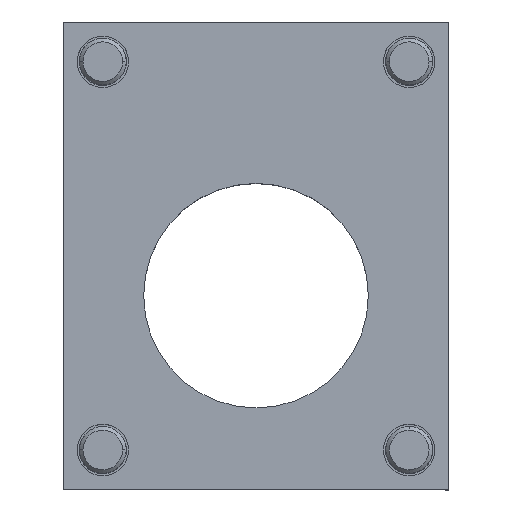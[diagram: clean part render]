
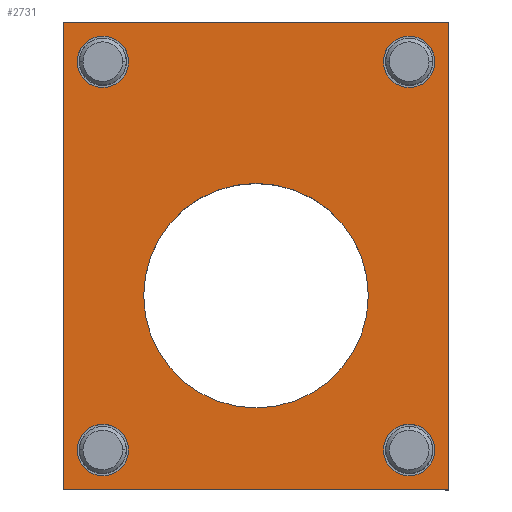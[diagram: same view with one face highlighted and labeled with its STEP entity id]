
A CAD part, top view. The second image highlights one B-rep face of the part: STEP entity #2731.
In plain terms, the highlighted planar face has unit normal (0, 0, 1).
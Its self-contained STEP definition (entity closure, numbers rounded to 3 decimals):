
#7 = ORIENTED_EDGE ( 'NONE', *, *, #4421, .T. ) ;
#12 = EDGE_CURVE ( 'NONE', #2792, #1802, #1208, .T. ) ;
#370 = DIRECTION ( 'NONE',  ( 1., 0., 0. ) ) ;
#408 = EDGE_CURVE ( 'NONE', #2916, #503, #6071, .T. ) ;
#425 = DIRECTION ( 'NONE',  ( 0., 0., 1. ) ) ;
#481 = DIRECTION ( 'NONE',  ( 0., 0., -1. ) ) ;
#493 = EDGE_CURVE ( 'NONE', #6315, #2860, #4574, .T. ) ;
#503 = VERTEX_POINT ( 'NONE', #4262 ) ;
#505 = DIRECTION ( 'NONE',  ( 0., 1., 0. ) ) ;
#580 = EDGE_CURVE ( 'NONE', #2860, #6315, #5850, .T. ) ;
#670 = CARTESIAN_POINT ( 'NONE',  ( -65.5, -77., -49.5 ) ) ;
#683 = DIRECTION ( 'NONE',  ( 0., 1., 0. ) ) ;
#714 = CARTESIAN_POINT ( 'NONE',  ( -65.5, 89., -49.5 ) ) ;
#748 = DIRECTION ( 'NONE',  ( 0., 0., -1. ) ) ;
#796 = CARTESIAN_POINT ( 'NONE',  ( 65.5, 89., -49.5 ) ) ;
#866 = LINE ( 'NONE', #2898, #4368 ) ;
#943 = CARTESIAN_POINT ( 'NONE',  ( 65.5, 100., -49.5 ) ) ;
#1023 = FACE_BOUND ( 'NONE', #4675, .T. ) ;
#1151 = DIRECTION ( 'NONE',  ( 0., 1., 0. ) ) ;
#1152 = AXIS2_PLACEMENT_3D ( 'NONE', #1284, #3227, #1724 ) ;
#1208 = CIRCLE ( 'NONE', #1961, 11. ) ;
#1240 = CARTESIAN_POINT ( 'NONE',  ( 65.5, 111., -49.5 ) ) ;
#1284 = CARTESIAN_POINT ( 'NONE',  ( -65.5, 100., -49.5 ) ) ;
#1313 = CIRCLE ( 'NONE', #5058, 11. ) ;
#1403 = DIRECTION ( 'NONE',  ( 0., 1., 0. ) ) ;
#1405 = CARTESIAN_POINT ( 'NONE',  ( 82.5, 117., -49.5 ) ) ;
#1465 = EDGE_CURVE ( 'NONE', #5059, #4111, #866, .T. ) ;
#1575 = EDGE_CURVE ( 'NONE', #4339, #5662, #3129, .T. ) ;
#1680 = EDGE_CURVE ( 'NONE', #3888, #6203, #5973, .T. ) ;
#1724 = DIRECTION ( 'NONE',  ( 0., 1., 0. ) ) ;
#1760 = CARTESIAN_POINT ( 'NONE',  ( -65.5, 100., -49.5 ) ) ;
#1802 = VERTEX_POINT ( 'NONE', #796 ) ;
#1953 = CIRCLE ( 'NONE', #5688, 11. ) ;
#1961 = AXIS2_PLACEMENT_3D ( 'NONE', #5091, #2081, #505 ) ;
#1964 = PLANE ( 'NONE',  #4605 ) ;
#1993 = FACE_BOUND ( 'NONE', #6585, .T. ) ;
#2012 = CARTESIAN_POINT ( 'NONE',  ( 82.5, -83., -49.5 ) ) ;
#2025 = FACE_BOUND ( 'NONE', #3998, .T. ) ;
#2050 = DIRECTION ( 'NONE',  ( 0., -1., 0. ) ) ;
#2059 = AXIS2_PLACEMENT_3D ( 'NONE', #2302, #6371, #2366 ) ;
#2081 = DIRECTION ( 'NONE',  ( 0., 0., -1. ) ) ;
#2170 = CARTESIAN_POINT ( 'NONE',  ( 82.5, -83., -49.5 ) ) ;
#2302 = CARTESIAN_POINT ( 'NONE',  ( -65.5, -66., -49.5 ) ) ;
#2366 = DIRECTION ( 'NONE',  ( 0., 1., 0. ) ) ;
#2405 = VECTOR ( 'NONE', #2050, 1000. ) ;
#2482 = ORIENTED_EDGE ( 'NONE', *, *, #493, .T. ) ;
#2653 = VECTOR ( 'NONE', #3037, 1000. ) ;
#2693 = CARTESIAN_POINT ( 'NONE',  ( 0., 0., -49.5 ) ) ;
#2731 = ADVANCED_FACE ( 'NONE', ( #1023, #6597, #4537, #2025, #1993, #3596 ), #1964, .T. ) ;
#2792 = VERTEX_POINT ( 'NONE', #1240 ) ;
#2821 = DIRECTION ( 'NONE',  ( 0., 0., -1. ) ) ;
#2829 = DIRECTION ( 'NONE',  ( 0., 0., -1. ) ) ;
#2860 = VERTEX_POINT ( 'NONE', #4316 ) ;
#2865 = EDGE_LOOP ( 'NONE', ( #5087, #5628 ) ) ;
#2898 = CARTESIAN_POINT ( 'NONE',  ( 82.5, 117., -49.5 ) ) ;
#2916 = VERTEX_POINT ( 'NONE', #6043 ) ;
#2929 = EDGE_CURVE ( 'NONE', #6203, #3888, #5877, .T. ) ;
#3015 = CARTESIAN_POINT ( 'NONE',  ( -82.5, 117., -49.5 ) ) ;
#3026 = ORIENTED_EDGE ( 'NONE', *, *, #1575, .F. ) ;
#3037 = DIRECTION ( 'NONE',  ( -1., 0., 0. ) ) ;
#3076 = EDGE_LOOP ( 'NONE', ( #4593, #4528, #3026, #4512 ) ) ;
#3123 = DIRECTION ( 'NONE',  ( 0., 0., -1. ) ) ;
#3129 = LINE ( 'NONE', #3604, #2653 ) ;
#3146 = CARTESIAN_POINT ( 'NONE',  ( 0., 48., -49.5 ) ) ;
#3174 = AXIS2_PLACEMENT_3D ( 'NONE', #1760, #2821, #4328 ) ;
#3227 = DIRECTION ( 'NONE',  ( 0., 0., -1. ) ) ;
#3236 = DIRECTION ( 'NONE',  ( 0., 1., 0. ) ) ;
#3317 = ORIENTED_EDGE ( 'NONE', *, *, #580, .T. ) ;
#3339 = CIRCLE ( 'NONE', #2059, 11. ) ;
#3401 = DIRECTION ( 'NONE',  ( 0., 1., 0. ) ) ;
#3553 = LINE ( 'NONE', #2012, #2405 ) ;
#3596 = FACE_OUTER_BOUND ( 'NONE', #3076, .T. ) ;
#3604 = CARTESIAN_POINT ( 'NONE',  ( -82.5, -83., -49.5 ) ) ;
#3640 = CARTESIAN_POINT ( 'NONE',  ( -65.5, -55., -49.5 ) ) ;
#3698 = ORIENTED_EDGE ( 'NONE', *, *, #1680, .T. ) ;
#3706 = EDGE_CURVE ( 'NONE', #1802, #2792, #1313, .T. ) ;
#3741 = EDGE_CURVE ( 'NONE', #4111, #4339, #3553, .T. ) ;
#3785 = CARTESIAN_POINT ( 'NONE',  ( 0., -48., -49.5 ) ) ;
#3815 = ORIENTED_EDGE ( 'NONE', *, *, #3706, .T. ) ;
#3846 = EDGE_CURVE ( 'NONE', #5662, #5059, #5563, .T. ) ;
#3888 = VERTEX_POINT ( 'NONE', #3785 ) ;
#3938 = CARTESIAN_POINT ( 'NONE',  ( -82.5, -83., -49.5 ) ) ;
#3941 = CARTESIAN_POINT ( 'NONE',  ( -65.5, -66., -49.5 ) ) ;
#3998 = EDGE_LOOP ( 'NONE', ( #7, #5009 ) ) ;
#4111 = VERTEX_POINT ( 'NONE', #1405 ) ;
#4262 = CARTESIAN_POINT ( 'NONE',  ( 65.5, -77., -49.5 ) ) ;
#4315 = VERTEX_POINT ( 'NONE', #3640 ) ;
#4316 = CARTESIAN_POINT ( 'NONE',  ( -65.5, 111., -49.5 ) ) ;
#4322 = CARTESIAN_POINT ( 'NONE',  ( 65.5, -66., -49.5 ) ) ;
#4328 = DIRECTION ( 'NONE',  ( 0., 1., 0. ) ) ;
#4339 = VERTEX_POINT ( 'NONE', #2170 ) ;
#4368 = VECTOR ( 'NONE', #370, 1000. ) ;
#4421 = EDGE_CURVE ( 'NONE', #4315, #4975, #1953, .T. ) ;
#4492 = EDGE_CURVE ( 'NONE', #4975, #4315, #3339, .T. ) ;
#4505 = DIRECTION ( 'NONE',  ( 0., -1., 0. ) ) ;
#4512 = ORIENTED_EDGE ( 'NONE', *, *, #3741, .F. ) ;
#4519 = DIRECTION ( 'NONE',  ( 0., 0., -1. ) ) ;
#4528 = ORIENTED_EDGE ( 'NONE', *, *, #3846, .F. ) ;
#4537 = FACE_BOUND ( 'NONE', #2865, .T. ) ;
#4574 = CIRCLE ( 'NONE', #1152, 11. ) ;
#4588 = AXIS2_PLACEMENT_3D ( 'NONE', #2693, #4668, #3236 ) ;
#4593 = ORIENTED_EDGE ( 'NONE', *, *, #1465, .F. ) ;
#4605 = AXIS2_PLACEMENT_3D ( 'NONE', #5003, #425, #4505 ) ;
#4668 = DIRECTION ( 'NONE',  ( 0., 0., -1. ) ) ;
#4675 = EDGE_LOOP ( 'NONE', ( #5262, #3698 ) ) ;
#4738 = AXIS2_PLACEMENT_3D ( 'NONE', #4322, #748, #683 ) ;
#4821 = AXIS2_PLACEMENT_3D ( 'NONE', #6514, #4519, #1403 ) ;
#4956 = CIRCLE ( 'NONE', #4738, 11. ) ;
#4975 = VERTEX_POINT ( 'NONE', #670 ) ;
#5003 = CARTESIAN_POINT ( 'NONE',  ( 0., 17., -49.5 ) ) ;
#5009 = ORIENTED_EDGE ( 'NONE', *, *, #4492, .T. ) ;
#5058 = AXIS2_PLACEMENT_3D ( 'NONE', #943, #481, #5128 ) ;
#5059 = VERTEX_POINT ( 'NONE', #5604 ) ;
#5063 = DIRECTION ( 'NONE',  ( 0., 1., 0. ) ) ;
#5087 = ORIENTED_EDGE ( 'NONE', *, *, #408, .T. ) ;
#5091 = CARTESIAN_POINT ( 'NONE',  ( 65.5, 100., -49.5 ) ) ;
#5128 = DIRECTION ( 'NONE',  ( 0., 1., 0. ) ) ;
#5262 = ORIENTED_EDGE ( 'NONE', *, *, #2929, .T. ) ;
#5290 = EDGE_LOOP ( 'NONE', ( #3317, #2482 ) ) ;
#5546 = AXIS2_PLACEMENT_3D ( 'NONE', #6192, #3123, #1151 ) ;
#5563 = LINE ( 'NONE', #3015, #5618 ) ;
#5604 = CARTESIAN_POINT ( 'NONE',  ( -82.5, 117., -49.5 ) ) ;
#5618 = VECTOR ( 'NONE', #5063, 1000. ) ;
#5628 = ORIENTED_EDGE ( 'NONE', *, *, #6286, .T. ) ;
#5662 = VERTEX_POINT ( 'NONE', #3938 ) ;
#5688 = AXIS2_PLACEMENT_3D ( 'NONE', #3941, #2829, #3401 ) ;
#5850 = CIRCLE ( 'NONE', #3174, 11. ) ;
#5877 = CIRCLE ( 'NONE', #4821, 48. ) ;
#5973 = CIRCLE ( 'NONE', #4588, 48. ) ;
#6043 = CARTESIAN_POINT ( 'NONE',  ( 65.5, -55., -49.5 ) ) ;
#6071 = CIRCLE ( 'NONE', #5546, 11. ) ;
#6192 = CARTESIAN_POINT ( 'NONE',  ( 65.5, -66., -49.5 ) ) ;
#6199 = ORIENTED_EDGE ( 'NONE', *, *, #12, .T. ) ;
#6203 = VERTEX_POINT ( 'NONE', #3146 ) ;
#6286 = EDGE_CURVE ( 'NONE', #503, #2916, #4956, .T. ) ;
#6315 = VERTEX_POINT ( 'NONE', #714 ) ;
#6371 = DIRECTION ( 'NONE',  ( 0., 0., -1. ) ) ;
#6514 = CARTESIAN_POINT ( 'NONE',  ( 0., 0., -49.5 ) ) ;
#6585 = EDGE_LOOP ( 'NONE', ( #6199, #3815 ) ) ;
#6597 = FACE_BOUND ( 'NONE', #5290, .T. ) ;
